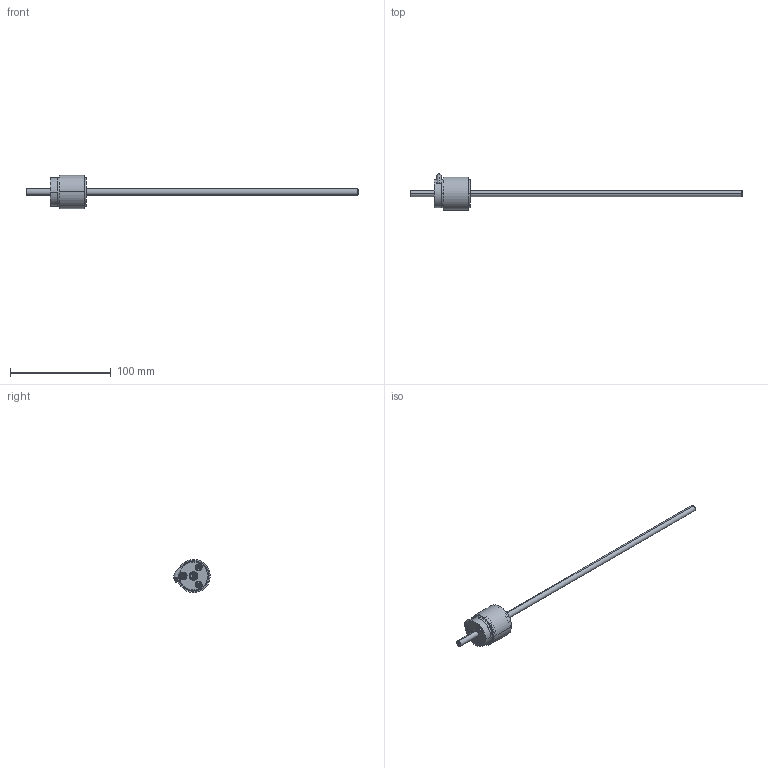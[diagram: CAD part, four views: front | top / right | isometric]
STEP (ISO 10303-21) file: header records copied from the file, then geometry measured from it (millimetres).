
FILE_DESCRIPTION (( 'STEP AP214' ), '1' );
FILE_NAME ('Sestav_LinACE_d6_v3.STEP', '2020-06-23T13:33:21', ( '' ), ( '' ), 'SwSTEP 2.0', 'SolidWorks 2016', '' );
FILE_SCHEMA (( 'AUTOMOTIVE_DESIGN' ));
Length unit declared in the file: millimetre
Products named in the file (9): Pokrov; vijak_M3x8_DIN965; oring; MN01536D01; Palica d6_L=330; Cable_radial; Sestav_LinACE_d6_v3; Ležaj d6_D8_4_Povrtana; Pokrov d6
Assembly tree (12 placements, depth 2):
  Sestav_LinACE_d6_v3
    Palica d6_L=330
    MN01536D01
    Ležaj d6_D8_4_Povrtana  x2
    oring  x2
    Pokrov
    Pokrov d6
    Cable_radial
    vijak_M3x8_DIN965  x3
Bounding box: 330 x 36.21 x 33 mm (x, y, z)
Volume: 27128.3 mm3; surface area: 22306.5 mm2
Topology: 12 solids, 12 shells, 434 faces, 1035 edges, 642 vertices
Faces by surface type: cylinder 179, plane 148, cone 85, torus 22
Entity records: 11158 total; most frequent: DIRECTION 1961, CARTESIAN_POINT 1954, ORIENTED_EDGE 1674, EDGE_CURVE 837, AXIS2_PLACEMENT_3D 778, VERTEX_POINT 530, EDGE_LOOP 415, CIRCLE 406
